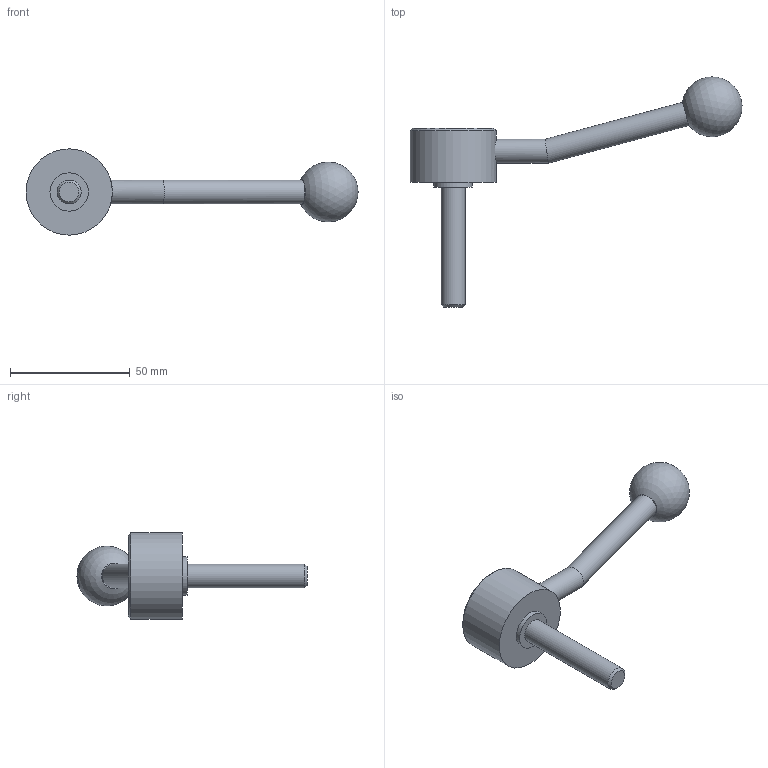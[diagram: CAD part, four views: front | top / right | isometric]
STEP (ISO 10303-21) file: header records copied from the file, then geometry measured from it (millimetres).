
FILE_DESCRIPTION( ( 'STEP AP203' ), '1' );
FILE_NAME( 'C:/Temp/Ganter_Step_05_03_2020/data/2_1/gn_125/gn_125_ms/gn_125_ms_e/Flat Adjustable Lever GN 125-36-M10-50-E.stp', '2020-03-05T11:00:58', ( 'License CC BY-ND 4.0' ), ( 'CADENAS' ), ' ', 'PARTsolutions', ' ' );
FILE_SCHEMA( ( 'CONFIG_CONTROL_DESIGN' ) );
Length unit declared in the file: millimetre
Products named in the file (1): _Flat Adjustable Lever GN 125-36-M10-50-E
Bounding box: 138.41 x 95.97 x 36 mm (x, y, z)
Volume: 41536.3 mm3; surface area: 10544.9 mm2
Topology: 1 solids, 1 shells, 15 faces, 25 edges, 16 vertices
Faces by surface type: cylinder 6, plane 6, cone 2, sphere 1
Full cylindrical faces by diameter (mm): 10 x3, 16 x1, 26 x1, 36 x1
Entity records: 412 total; most frequent: CARTESIAN_POINT 118, DIRECTION 58, AXIS2_PLACEMENT_3D 29, EDGE_LOOP 28, ORIENTED_EDGE 28, FACE_OUTER_BOUND 21, ADVANCED_FACE 15, VERTEX_POINT 15
